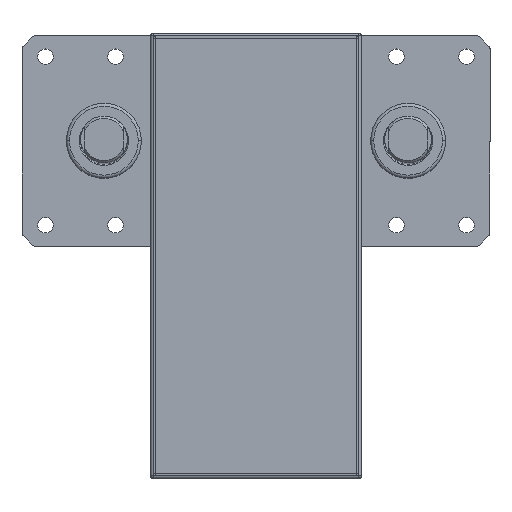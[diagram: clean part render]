
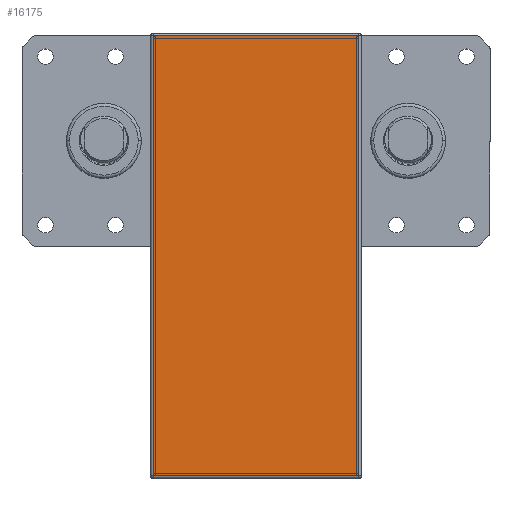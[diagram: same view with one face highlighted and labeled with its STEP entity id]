
A CAD part, top view. The second image highlights one B-rep face of the part: STEP entity #16175.
In plain terms, the highlighted planar face has unit normal (0, 0, 1).
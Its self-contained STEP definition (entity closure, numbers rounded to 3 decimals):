
#661 = DIRECTION ( 'NONE',  ( 0., 1., 0. ) ) ;
#1591 = VECTOR ( 'NONE', #19251, 1000. ) ;
#1874 = VECTOR ( 'NONE', #29499, 1000. ) ;
#2785 = CARTESIAN_POINT ( 'NONE',  ( -44., -144., 471. ) ) ;
#4721 = VERTEX_POINT ( 'NONE', #31030 ) ;
#4861 = CARTESIAN_POINT ( 'NONE',  ( -44., -144., 471. ) ) ;
#4996 = DIRECTION ( 'NONE',  ( 1., 0., 0. ) ) ;
#5405 = EDGE_CURVE ( 'NONE', #4721, #22182, #40149, .T. ) ;
#7377 = FACE_OUTER_BOUND ( 'NONE', #28410, .T. ) ;
#7764 = EDGE_CURVE ( 'NONE', #37968, #10198, #28415, .T. ) ;
#9461 = CARTESIAN_POINT ( 'NONE',  ( -44., -144., 471. ) ) ;
#9949 = ORIENTED_EDGE ( 'NONE', *, *, #29282, .T. ) ;
#10198 = VERTEX_POINT ( 'NONE', #2785 ) ;
#11162 = ORIENTED_EDGE ( 'NONE', *, *, #5405, .T. ) ;
#12569 = VECTOR ( 'NONE', #661, 1000. ) ;
#15016 = EDGE_CURVE ( 'NONE', #22182, #37968, #19342, .T. ) ;
#16175 = ADVANCED_FACE ( 'NONE', ( #7377 ), #24625, .T. ) ;
#16470 = AXIS2_PLACEMENT_3D ( 'NONE', #4861, #24895, #4996 ) ;
#16673 = ORIENTED_EDGE ( 'NONE', *, *, #15016, .T. ) ;
#19251 = DIRECTION ( 'NONE',  ( -1., 0., 0. ) ) ;
#19342 = LINE ( 'NONE', #26020, #1591 ) ;
#19948 = CARTESIAN_POINT ( 'NONE',  ( 44., -144., 471. ) ) ;
#22182 = VERTEX_POINT ( 'NONE', #37537 ) ;
#24625 = PLANE ( 'NONE',  #16470 ) ;
#24895 = DIRECTION ( 'NONE',  ( 0., 0., 1. ) ) ;
#25053 = LINE ( 'NONE', #19948, #42779 ) ;
#26020 = CARTESIAN_POINT ( 'NONE',  ( -44., 44., 471. ) ) ;
#28410 = EDGE_LOOP ( 'NONE', ( #37450, #9949, #11162, #16673 ) ) ;
#28415 = LINE ( 'NONE', #9461, #1874 ) ;
#29282 = EDGE_CURVE ( 'NONE', #10198, #4721, #25053, .T. ) ;
#29317 = CARTESIAN_POINT ( 'NONE',  ( -44., 44., 471. ) ) ;
#29499 = DIRECTION ( 'NONE',  ( 0., -1., 0. ) ) ;
#31030 = CARTESIAN_POINT ( 'NONE',  ( 44., -144., 471. ) ) ;
#37450 = ORIENTED_EDGE ( 'NONE', *, *, #7764, .T. ) ;
#37537 = CARTESIAN_POINT ( 'NONE',  ( 44., 44., 471. ) ) ;
#37968 = VERTEX_POINT ( 'NONE', #29317 ) ;
#40149 = LINE ( 'NONE', #40354, #12569 ) ;
#40354 = CARTESIAN_POINT ( 'NONE',  ( 44., 44., 471. ) ) ;
#42779 = VECTOR ( 'NONE', #43180, 1000. ) ;
#43180 = DIRECTION ( 'NONE',  ( 1., 0., 0. ) ) ;
